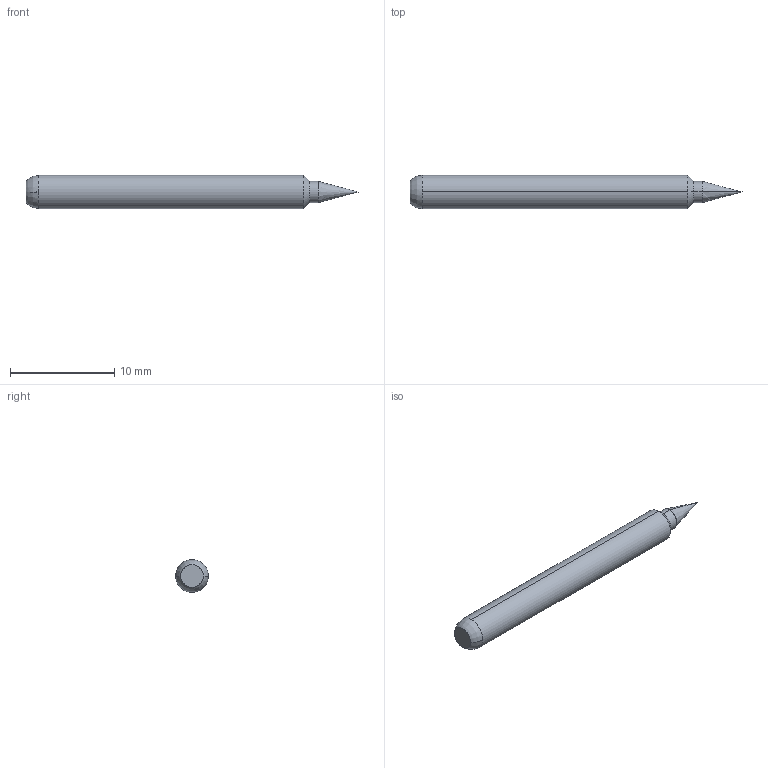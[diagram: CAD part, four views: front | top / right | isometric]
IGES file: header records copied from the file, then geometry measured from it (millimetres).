
Start section: SolidWorks IGES file using analytic representation for surfaces
Global section: file name: Z:\probe solid model mockups\Solidworks models\IGES Files\EPA-5 IGES files\EPA-5B RECD.IGS; native system: SolidWorks 2006 by SolidWorks Corporation; preprocessor: SolidWorks 2006 by SolidWorks Corporation; author: tsakatani; date: 080103.110718; units: inch
Bounding box: 31.83 x 3.17 x 3.17 mm (x, y, z)
Surface area: 293.7 mm2 (no closed solid volume)
Topology: 0 solids, 0 shells, 11 faces, 76 edges, 74 vertices
Faces by surface type: revolution 10, bspline 1
